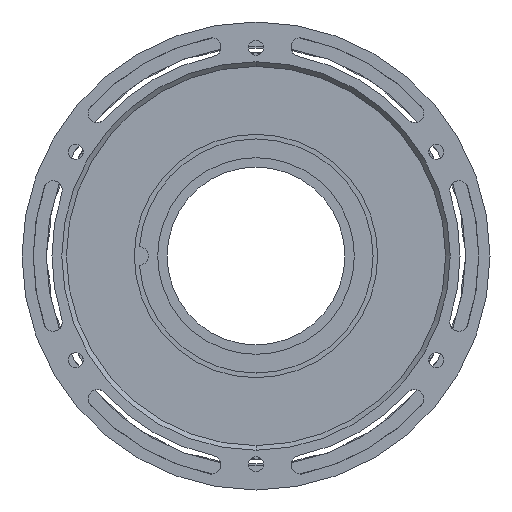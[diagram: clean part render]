
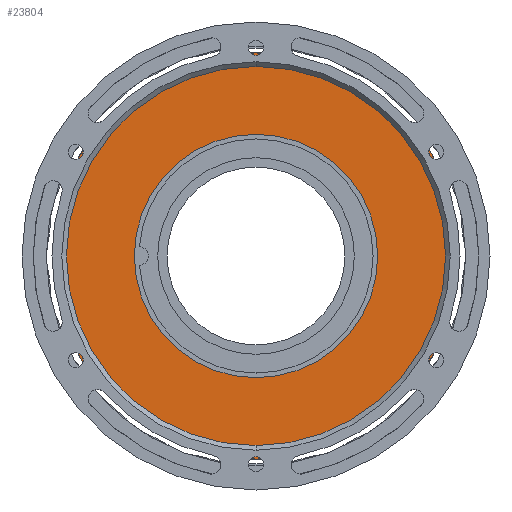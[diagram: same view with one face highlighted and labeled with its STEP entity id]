
A CAD part, front view. The second image highlights one B-rep face of the part: STEP entity #23804.
In plain terms, the highlighted planar face has unit normal (0, -1, 0) as drawn and (0, 1, 0) by its records, which use the part's own axes.
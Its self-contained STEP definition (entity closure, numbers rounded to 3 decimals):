
#977 = CIRCLE ( 'NONE', #31218, 13. ) ;
#1064 = DIRECTION ( 'NONE',  ( 0., 0., 1. ) ) ;
#2478 = CARTESIAN_POINT ( 'NONE',  ( 0., 3.8, 21.7 ) ) ;
#3347 = VERTEX_POINT ( 'NONE', #22736 ) ;
#8090 = CIRCLE ( 'NONE', #34242, 21.7 ) ;
#9718 = CARTESIAN_POINT ( 'NONE',  ( 0., 3.8, 0. ) ) ;
#11499 = EDGE_LOOP ( 'NONE', ( #29013, #25490 ) ) ;
#11593 = EDGE_LOOP ( 'NONE', ( #37973, #28717 ) ) ;
#12842 = VERTEX_POINT ( 'NONE', #21668 ) ;
#13334 = DIRECTION ( 'NONE',  ( 0., 0., 1. ) ) ;
#13392 = EDGE_CURVE ( 'NONE', #12842, #3347, #23886, .T. ) ;
#14436 = EDGE_CURVE ( 'NONE', #36676, #46455, #24371, .T. ) ;
#18951 = DIRECTION ( 'NONE',  ( 0., 0., 1. ) ) ;
#19200 = FACE_BOUND ( 'NONE', #11593, .T. ) ;
#20282 = CARTESIAN_POINT ( 'NONE',  ( 0., 3.8, 0. ) ) ;
#21668 = CARTESIAN_POINT ( 'NONE',  ( 0., 3.8, -13. ) ) ;
#22283 = EDGE_CURVE ( 'NONE', #46455, #36676, #8090, .T. ) ;
#22736 = CARTESIAN_POINT ( 'NONE',  ( 0., 3.8, 13. ) ) ;
#22953 = CARTESIAN_POINT ( 'NONE',  ( 0., 3.8, 0. ) ) ;
#23804 = ADVANCED_FACE ( 'NONE', ( #45611, #19200 ), #41735, .T. ) ;
#23886 = CIRCLE ( 'NONE', #26381, 13. ) ;
#24371 = CIRCLE ( 'NONE', #30891, 21.7 ) ;
#25490 = ORIENTED_EDGE ( 'NONE', *, *, #22283, .T. ) ;
#25906 = EDGE_CURVE ( 'NONE', #3347, #12842, #977, .T. ) ;
#26381 = AXIS2_PLACEMENT_3D ( 'NONE', #20282, #31523, #35891 ) ;
#28717 = ORIENTED_EDGE ( 'NONE', *, *, #25906, .F. ) ;
#29013 = ORIENTED_EDGE ( 'NONE', *, *, #14436, .T. ) ;
#30095 = CARTESIAN_POINT ( 'NONE',  ( 0., 3.8, -21.7 ) ) ;
#30891 = AXIS2_PLACEMENT_3D ( 'NONE', #36149, #46938, #1064 ) ;
#31112 = DIRECTION ( 'NONE',  ( 0., 1., 0. ) ) ;
#31218 = AXIS2_PLACEMENT_3D ( 'NONE', #22953, #31112, #38524 ) ;
#31523 = DIRECTION ( 'NONE',  ( 0., 1., 0. ) ) ;
#34242 = AXIS2_PLACEMENT_3D ( 'NONE', #9718, #48946, #13334 ) ;
#34551 = DIRECTION ( 'NONE',  ( 0., 1., 0. ) ) ;
#35891 = DIRECTION ( 'NONE',  ( 0., 0., 1. ) ) ;
#36003 = AXIS2_PLACEMENT_3D ( 'NONE', #50466, #34551, #18951 ) ;
#36149 = CARTESIAN_POINT ( 'NONE',  ( 0., 3.8, 0. ) ) ;
#36676 = VERTEX_POINT ( 'NONE', #30095 ) ;
#37973 = ORIENTED_EDGE ( 'NONE', *, *, #13392, .F. ) ;
#38524 = DIRECTION ( 'NONE',  ( 0., 0., 1. ) ) ;
#41735 = PLANE ( 'NONE',  #36003 ) ;
#45611 = FACE_OUTER_BOUND ( 'NONE', #11499, .T. ) ;
#46455 = VERTEX_POINT ( 'NONE', #2478 ) ;
#46938 = DIRECTION ( 'NONE',  ( 0., 1., 0. ) ) ;
#48946 = DIRECTION ( 'NONE',  ( 0., 1., 0. ) ) ;
#50466 = CARTESIAN_POINT ( 'NONE',  ( 0., 3.8, 0. ) ) ;
